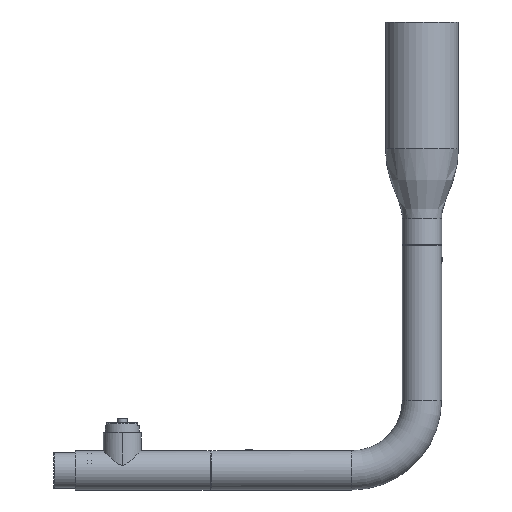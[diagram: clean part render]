
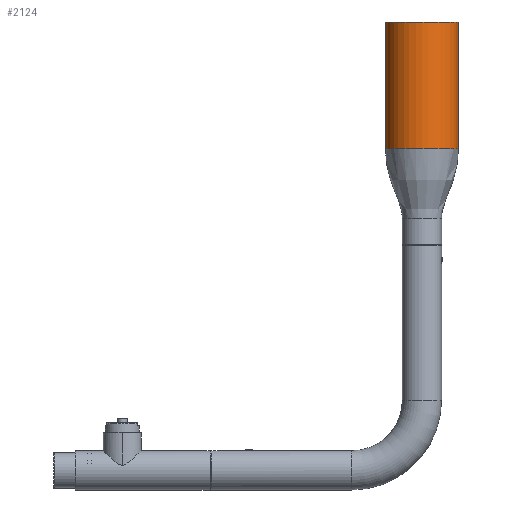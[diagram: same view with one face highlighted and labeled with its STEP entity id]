
A CAD part, front view. The second image highlights one B-rep face of the part: STEP entity #2124.
In plain terms, the highlighted cylindrical face has radius 26 mm (diameter 52 mm), a partial arc.
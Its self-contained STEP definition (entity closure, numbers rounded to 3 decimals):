
#374=CARTESIAN_POINT('',(0.,0.,-90.));
#375=DIRECTION('',(0.,0.,-1.));
#376=DIRECTION('',(1.,0.,0.));
#377=AXIS2_PLACEMENT_3D('',#374,#375,#376);
#479=DIRECTION('',(0.,0.,-1.));
#480=VECTOR('',#479,90.);
#481=CARTESIAN_POINT('',(26.,0.,0.));
#482=LINE('',#481,#480);
#488=DIRECTION('',(0.,0.,-1.));
#489=VECTOR('',#488,90.);
#490=CARTESIAN_POINT('',(-26.,0.,0.));
#491=LINE('',#490,#489);
#718=CARTESIAN_POINT('',(0.,0.,0.));
#719=DIRECTION('',(0.,0.,-1.));
#720=DIRECTION('',(1.,0.,0.));
#721=AXIS2_PLACEMENT_3D('',#718,#719,#720);
#886=CARTESIAN_POINT('',(26.,0.,0.));
#887=CARTESIAN_POINT('',(26.,0.,-90.));
#888=VERTEX_POINT('',#886);
#889=VERTEX_POINT('',#887);
#893=CARTESIAN_POINT('',(-26.,0.,0.));
#894=CARTESIAN_POINT('',(-26.,0.,-90.));
#895=VERTEX_POINT('',#893);
#896=VERTEX_POINT('',#894);
#2112=CARTESIAN_POINT('',(0.,0.,7.9));
#2113=DIRECTION('',(0.,0.,-1.));
#2114=DIRECTION('',(1.,0.,0.));
#2115=AXIS2_PLACEMENT_3D('',#2112,#2113,#2114);
#2116=CYLINDRICAL_SURFACE('',#2115,26.);
#2117=ORIENTED_EDGE('',*,*,#1671,.T.);
#2118=ORIENTED_EDGE('',*,*,#1505,.T.);
#2119=ORIENTED_EDGE('',*,*,#1675,.F.);
#2121=ORIENTED_EDGE('',*,*,#2120,.F.);
#2122=EDGE_LOOP('',(#2117,#2118,#2119,#2121));
#2123=FACE_OUTER_BOUND('',#2122,.F.);
#378=CIRCLE('',#377,26.);
#722=CIRCLE('',#721,26.);
#1505=EDGE_CURVE('',#889,#896,#378,.T.);
#1671=EDGE_CURVE('',#888,#889,#482,.T.);
#1675=EDGE_CURVE('',#895,#896,#491,.T.);
#2120=EDGE_CURVE('',#888,#895,#722,.T.);
#2124=ADVANCED_FACE('',(#2123),#2116,.T.);
